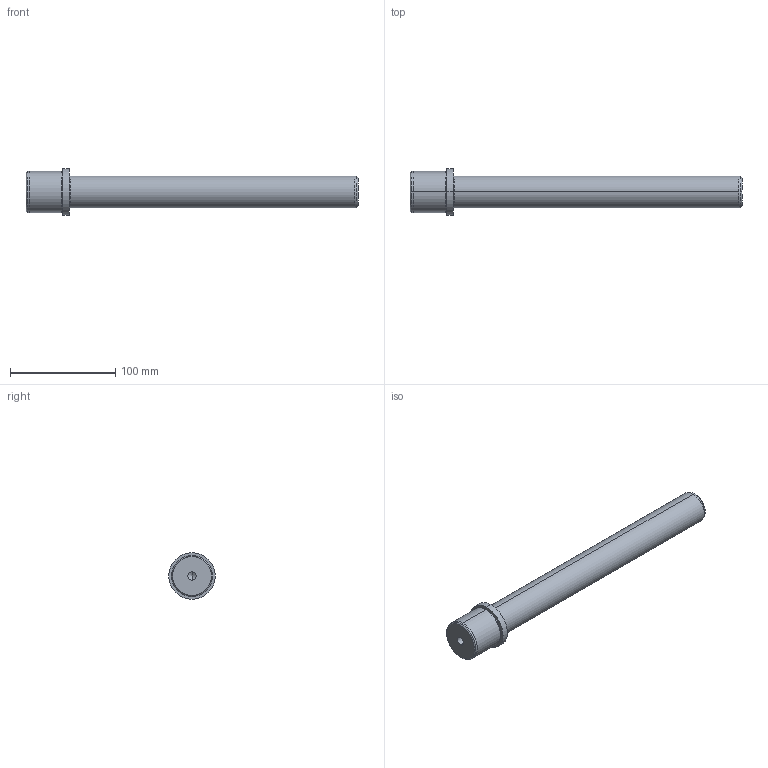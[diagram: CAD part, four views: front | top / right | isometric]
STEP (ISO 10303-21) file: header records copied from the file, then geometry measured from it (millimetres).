
FILE_DESCRIPTION( ( 'STEP AP203' ), '1' );
FILE_NAME( 'D:/Delta 3 D/D05/D05 - 30x280x35.step', '2002-12-31T22:46:13', ( ' ' ), ( ' ' ), 'XStep 1.0', ' ', ' ' );
FILE_SCHEMA( ( 'CONFIG_CONTROL_DESIGN' ) );
Length unit declared in the file: metre
Products named in the file (1): 1
Bounding box: 315 x 44 x 44 mm (x, y, z)
Volume: 244078.1 mm3; surface area: 34164.3 mm2
Topology: 1 solids, 1 shells, 29 faces, 58 edges, 35 vertices
Faces by surface type: revolution 20, bspline 9
Entity records: 855 total; most frequent: CARTESIAN_POINT 218, ORIENTED_EDGE 112, DIRECTION 110, EDGE_CURVE 56, AXIS2_PLACEMENT_3D 35, EDGE_LOOP 35, VERTEX_POINT 35, CIRCLE 34
